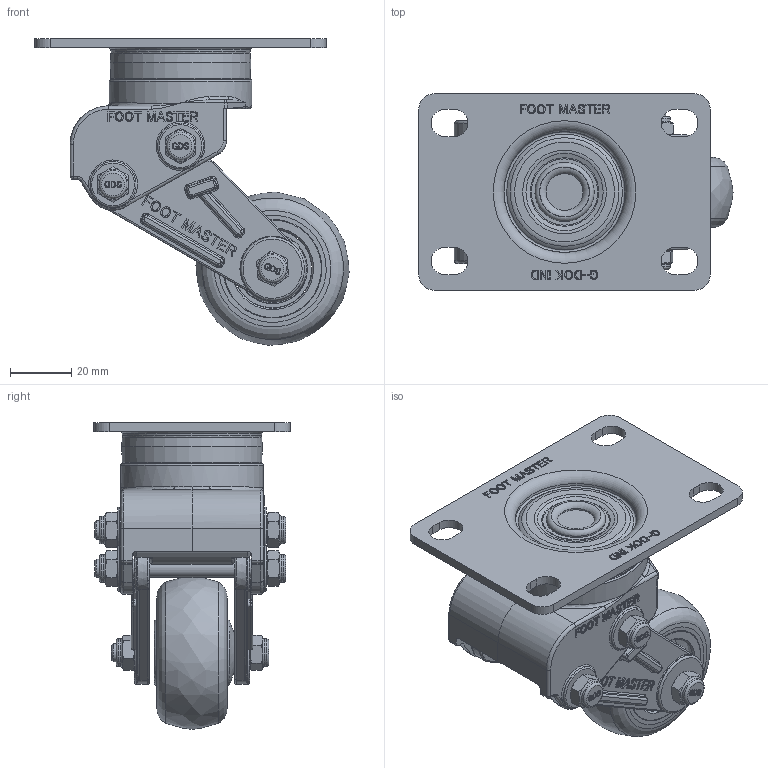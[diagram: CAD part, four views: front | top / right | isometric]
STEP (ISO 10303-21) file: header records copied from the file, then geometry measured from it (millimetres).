
FILE_DESCRIPTION(/* description */ (''),/* implementation_level */ '2;1');
FILE_NAME(/* name */ 'C:\Users\admin\Desktop\JYS\개발품\상세설계_20220328\홈페이지용 도면\GDS-50-ASF-EUS-PUS.stp',/* time_stamp */ '2023-03-08T15:33:04+09:00',/* author */ ('admin'),/* organization */ (''),/* preprocessor_version */ 'ST-DEVELOPER v18.1',/* originating_system */ 'Autodesk Inventor 2021',/* authorisation */ '');
FILE_SCHEMA (('AUTOMOTIVE_DESIGN { 1 0 10303 214 3 1 1 }'));
Products named in the file (1): GDS-50_ASF_(US)_REV01_Shrinkwrap_1
Bounding box: 102.47 x 64 x 99.97 mm (x, y, z)
Volume: 130308.1 mm3; surface area: 51533.8 mm2
Topology: 1 solids, 1 shells, 2072 faces, 5495 edges, 3543 vertices
Faces by surface type: plane 814, bspline 652, cylinder 296, cone 167, torus 123, sphere 20
Full cylindrical faces by diameter (mm): 6 x5, 8.8 x3, 9 x6, 12 x1, 17.216 x2, 18 x1, 19.3 x1, 20 x2, 22 x2, 22.784 x2, 30 x1, 42.5 x1, 46.5 x1
Entity records: 72200 total; most frequent: CARTESIAN_POINT 22740, ORIENTED_EDGE 10966, DIRECTION 8045, EDGE_CURVE 5483, VERTEX_POINT 3543, AXIS2_PLACEMENT_3D 2706, LINE 2633, VECTOR 2633
